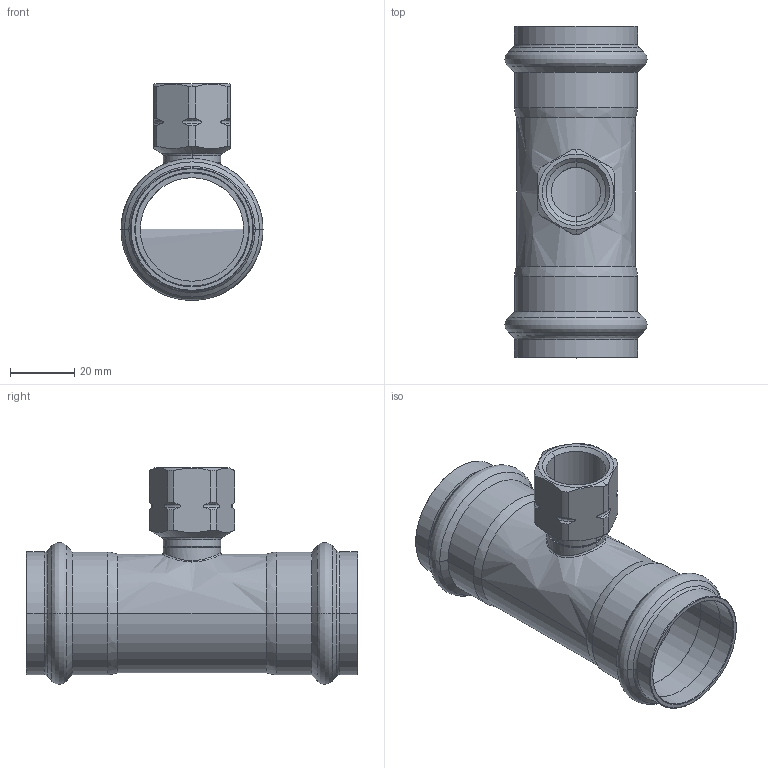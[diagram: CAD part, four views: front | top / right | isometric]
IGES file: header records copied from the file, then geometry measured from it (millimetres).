
Start section: Elysium IGES Interface
Global section: file name: C:\3d modellen sudo\C-Pr VP\SP8130GV\8130GVW351235.igs; native system: CoCreate Modeling 17.00A  17-Jun-2010; preprocessor: CoCreate IGES_3D V2.2; author: Unknown; organization: Unknown; date: 20130212.125344; units: millimetre
Bounding box: 44.3 x 103.51 x 67.63 mm (x, y, z)
Volume: 27119.4 mm3; surface area: 28883.7 mm2
Topology: 1 solids, 1 shells, 138 faces, 334 edges, 196 vertices
Faces by surface type: bspline 138
